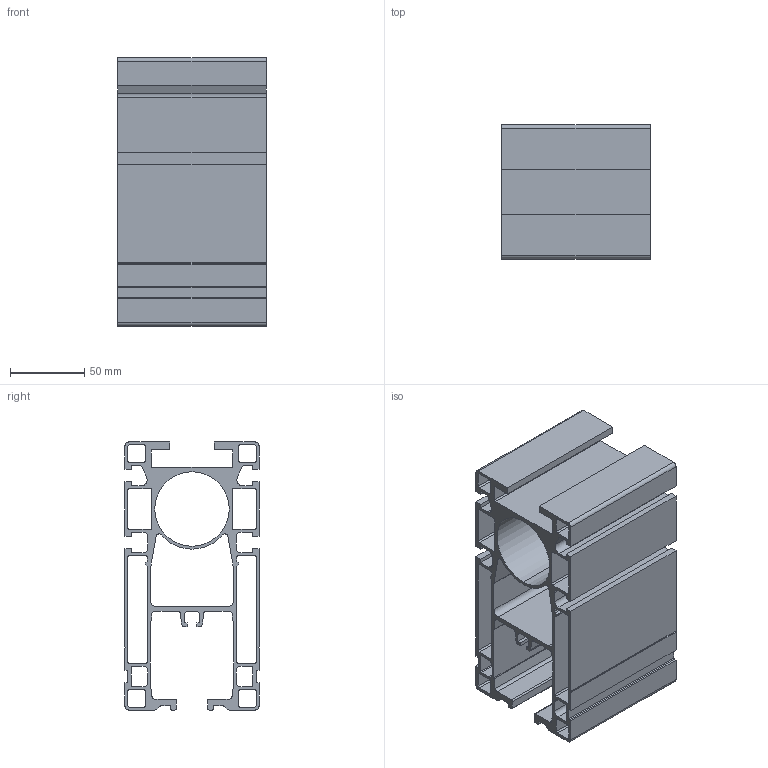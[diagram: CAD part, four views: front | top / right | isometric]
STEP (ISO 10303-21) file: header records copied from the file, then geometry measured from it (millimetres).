
FILE_DESCRIPTION (( 'STEP AP214' ), '1' );
FILE_NAME ('900.180.090.STEP', '2020-07-23T09:05:54', ( '' ), ( '' ), 'SwSTEP 2.0', 'SolidWorks 2018', '' );
FILE_SCHEMA (( 'AUTOMOTIVE_DESIGN' ));
Length unit declared in the file: millimetre
Products named in the file (1): 900.180.090
Bounding box: 100 x 90 x 180 mm (x, y, z)
Volume: 339031.7 mm3; surface area: 222677.2 mm2
Topology: 1 solids, 1 shells, 246 faces, 732 edges, 488 vertices
Faces by surface type: plane 145, cylinder 101
Entity records: 8360 total; most frequent: CARTESIAN_POINT 1467, ORIENTED_EDGE 1464, DIRECTION 1428, EDGE_CURVE 732, LINE 530, VECTOR 530, VERTEX_POINT 488, AXIS2_PLACEMENT_3D 449
